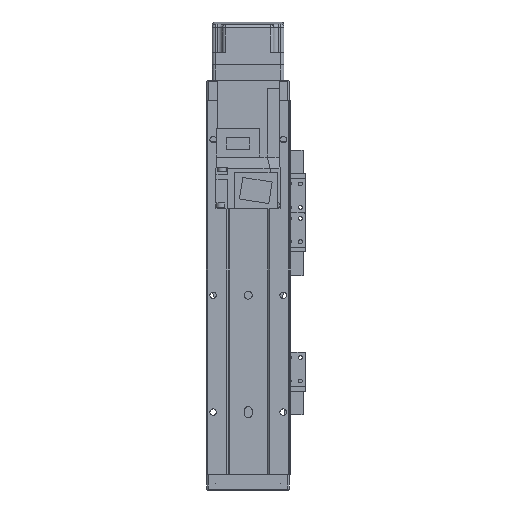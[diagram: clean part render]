
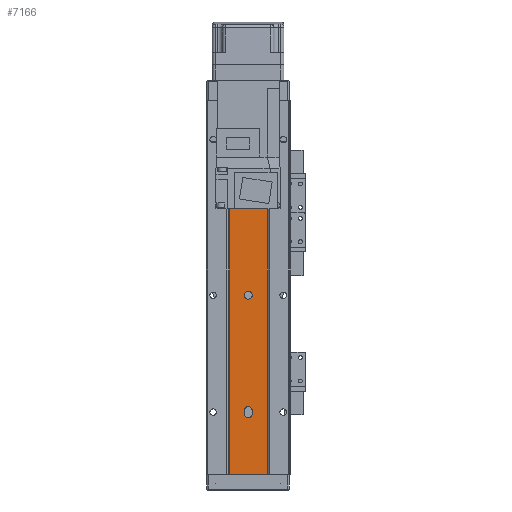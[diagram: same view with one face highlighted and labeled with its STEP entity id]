
A CAD part, front view. The second image highlights one B-rep face of the part: STEP entity #7166.
In plain terms, the highlighted planar face has unit normal (0, -1, 0).
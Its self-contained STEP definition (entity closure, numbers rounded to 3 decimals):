
#966 = VECTOR ( 'NONE', #19597, 1000. ) ;
#1680 = VECTOR ( 'NONE', #19294, 1000. ) ;
#1746 = VERTEX_POINT ( 'NONE', #25744 ) ;
#1857 = VERTEX_POINT ( 'NONE', #32494 ) ;
#2590 = CARTESIAN_POINT ( 'NONE',  ( 2.5, 1.5, -201. ) ) ;
#2775 = CIRCLE ( 'NONE', #32087, 2.5 ) ;
#3123 = AXIS2_PLACEMENT_3D ( 'NONE', #15019, #6473, #8986 ) ;
#3504 = DIRECTION ( 'NONE',  ( 0., -1., 0. ) ) ;
#4446 = CIRCLE ( 'NONE', #8570, 2.5 ) ;
#4576 = VERTEX_POINT ( 'NONE', #4833 ) ;
#4597 = CARTESIAN_POINT ( 'NONE',  ( 2.5, 1.5, -199. ) ) ;
#4639 = CARTESIAN_POINT ( 'NONE',  ( -12.293, 1.5, -240. ) ) ;
#4833 = CARTESIAN_POINT ( 'NONE',  ( -12.293, 1.5, 0. ) ) ;
#5789 = ORIENTED_EDGE ( 'NONE', *, *, #15330, .F. ) ;
#6116 = DIRECTION ( 'NONE',  ( 1., 0., 0. ) ) ;
#6473 = DIRECTION ( 'NONE',  ( 0., -1., 0. ) ) ;
#6650 = FACE_BOUND ( 'NONE', #19125, .T. ) ;
#7133 = FACE_BOUND ( 'NONE', #36907, .T. ) ;
#7166 = ADVANCED_FACE ( 'NONE', ( #7133, #14301, #6650, #22002 ), #32478, .T. ) ;
#7495 = CIRCLE ( 'NONE', #8347, 2.5 ) ;
#7758 = EDGE_CURVE ( 'NONE', #36876, #4576, #17841, .T. ) ;
#8347 = AXIS2_PLACEMENT_3D ( 'NONE', #26218, #3504, #35041 ) ;
#8570 = AXIS2_PLACEMENT_3D ( 'NONE', #17163, #34257, #25545 ) ;
#8986 = DIRECTION ( 'NONE',  ( 1., 0., 0. ) ) ;
#9591 = LINE ( 'NONE', #25289, #25888 ) ;
#10089 = VERTEX_POINT ( 'NONE', #2590 ) ;
#10495 = DIRECTION ( 'NONE',  ( 0., -1., 0. ) ) ;
#11305 = LINE ( 'NONE', #28614, #966 ) ;
#11652 = CARTESIAN_POINT ( 'NONE',  ( -2.5, 1.5, -125. ) ) ;
#11894 = VERTEX_POINT ( 'NONE', #19966 ) ;
#11921 = EDGE_CURVE ( 'NONE', #1857, #18638, #11305, .T. ) ;
#12284 = DIRECTION ( 'NONE',  ( 0., -1., 0. ) ) ;
#12417 = AXIS2_PLACEMENT_3D ( 'NONE', #25166, #10495, #16541 ) ;
#12557 = VERTEX_POINT ( 'NONE', #26542 ) ;
#12841 = DIRECTION ( 'NONE',  ( 0., 0., 1. ) ) ;
#12905 = LINE ( 'NONE', #31314, #1680 ) ;
#14301 = FACE_BOUND ( 'NONE', #31506, .T. ) ;
#15019 = CARTESIAN_POINT ( 'NONE',  ( 12.293, 1.5, -240. ) ) ;
#15222 = CARTESIAN_POINT ( 'NONE',  ( -12.293, 1.5, -240. ) ) ;
#15330 = EDGE_CURVE ( 'NONE', #24517, #1746, #31989, .T. ) ;
#15415 = VERTEX_POINT ( 'NONE', #36190 ) ;
#16055 = ORIENTED_EDGE ( 'NONE', *, *, #28660, .F. ) ;
#16083 = DIRECTION ( 'NONE',  ( 0., -1., 0. ) ) ;
#16090 = ORIENTED_EDGE ( 'NONE', *, *, #24359, .T. ) ;
#16335 = CARTESIAN_POINT ( 'NONE',  ( 2.5, 1.5, -125. ) ) ;
#16541 = DIRECTION ( 'NONE',  ( 1., 0., 0. ) ) ;
#17163 = CARTESIAN_POINT ( 'NONE',  ( 0., 1.5, -25. ) ) ;
#17718 = VERTEX_POINT ( 'NONE', #11652 ) ;
#17841 = LINE ( 'NONE', #15222, #26931 ) ;
#17854 = CARTESIAN_POINT ( 'NONE',  ( 0., 1.5, -125. ) ) ;
#18638 = VERTEX_POINT ( 'NONE', #36987 ) ;
#18919 = LINE ( 'NONE', #23382, #28544 ) ;
#19072 = EDGE_CURVE ( 'NONE', #17718, #23555, #24867, .T. ) ;
#19125 = EDGE_LOOP ( 'NONE', ( #29067, #34258 ) ) ;
#19294 = DIRECTION ( 'NONE',  ( 0., 0., -1. ) ) ;
#19597 = DIRECTION ( 'NONE',  ( 0., 0., 1. ) ) ;
#19966 = CARTESIAN_POINT ( 'NONE',  ( -2.5, 1.5, -201. ) ) ;
#20074 = EDGE_CURVE ( 'NONE', #15415, #12557, #30731, .T. ) ;
#20458 = ORIENTED_EDGE ( 'NONE', *, *, #7758, .F. ) ;
#20894 = CARTESIAN_POINT ( 'NONE',  ( 0., 1.5, -25. ) ) ;
#22002 = FACE_OUTER_BOUND ( 'NONE', #31939, .T. ) ;
#22339 = ORIENTED_EDGE ( 'NONE', *, *, #28119, .F. ) ;
#23382 = CARTESIAN_POINT ( 'NONE',  ( 12.293, 1.5, -240. ) ) ;
#23555 = VERTEX_POINT ( 'NONE', #16335 ) ;
#24359 = EDGE_CURVE ( 'NONE', #36876, #1857, #18919, .T. ) ;
#24517 = VERTEX_POINT ( 'NONE', #4597 ) ;
#24794 = CARTESIAN_POINT ( 'NONE',  ( 0., 1.5, -199. ) ) ;
#24867 = CIRCLE ( 'NONE', #12417, 2.5 ) ;
#25166 = CARTESIAN_POINT ( 'NONE',  ( 0., 1.5, -125. ) ) ;
#25190 = ORIENTED_EDGE ( 'NONE', *, *, #26807, .F. ) ;
#25289 = CARTESIAN_POINT ( 'NONE',  ( 12.293, 1.5, 0. ) ) ;
#25545 = DIRECTION ( 'NONE',  ( 1., 0., 0. ) ) ;
#25744 = CARTESIAN_POINT ( 'NONE',  ( -2.5, 1.5, -199. ) ) ;
#25823 = VECTOR ( 'NONE', #12841, 1000. ) ;
#25888 = VECTOR ( 'NONE', #28120, 1000. ) ;
#26218 = CARTESIAN_POINT ( 'NONE',  ( 0., 1.5, -201. ) ) ;
#26230 = EDGE_CURVE ( 'NONE', #12557, #15415, #4446, .T. ) ;
#26542 = CARTESIAN_POINT ( 'NONE',  ( 2.5, 1.5, -25. ) ) ;
#26807 = EDGE_CURVE ( 'NONE', #11894, #10089, #7495, .T. ) ;
#26931 = VECTOR ( 'NONE', #32691, 1000. ) ;
#27186 = LINE ( 'NONE', #30182, #25823 ) ;
#27723 = EDGE_CURVE ( 'NONE', #4576, #18638, #9591, .T. ) ;
#28119 = EDGE_CURVE ( 'NONE', #10089, #24517, #27186, .T. ) ;
#28120 = DIRECTION ( 'NONE',  ( 1., 0., 0. ) ) ;
#28544 = VECTOR ( 'NONE', #6116, 1000. ) ;
#28614 = CARTESIAN_POINT ( 'NONE',  ( 12.293, 1.5, -240. ) ) ;
#28660 = EDGE_CURVE ( 'NONE', #23555, #17718, #2775, .T. ) ;
#29067 = ORIENTED_EDGE ( 'NONE', *, *, #26230, .F. ) ;
#29263 = AXIS2_PLACEMENT_3D ( 'NONE', #24794, #30643, #33428 ) ;
#30010 = DIRECTION ( 'NONE',  ( 1., 0., 0. ) ) ;
#30182 = CARTESIAN_POINT ( 'NONE',  ( 2.5, 1.5, -240. ) ) ;
#30643 = DIRECTION ( 'NONE',  ( 0., -1., 0. ) ) ;
#30731 = CIRCLE ( 'NONE', #34880, 2.5 ) ;
#31314 = CARTESIAN_POINT ( 'NONE',  ( -2.5, 1.5, -240. ) ) ;
#31506 = EDGE_LOOP ( 'NONE', ( #16055, #32431 ) ) ;
#31939 = EDGE_LOOP ( 'NONE', ( #35311, #20458, #16090, #32083 ) ) ;
#31989 = CIRCLE ( 'NONE', #29263, 2.5 ) ;
#32083 = ORIENTED_EDGE ( 'NONE', *, *, #11921, .T. ) ;
#32087 = AXIS2_PLACEMENT_3D ( 'NONE', #17854, #16083, #36333 ) ;
#32431 = ORIENTED_EDGE ( 'NONE', *, *, #19072, .F. ) ;
#32478 = PLANE ( 'NONE',  #3123 ) ;
#32494 = CARTESIAN_POINT ( 'NONE',  ( 12.293, 1.5, -240. ) ) ;
#32691 = DIRECTION ( 'NONE',  ( 0., 0., 1. ) ) ;
#33428 = DIRECTION ( 'NONE',  ( 1., 0., 0. ) ) ;
#33446 = ORIENTED_EDGE ( 'NONE', *, *, #36395, .F. ) ;
#34257 = DIRECTION ( 'NONE',  ( 0., -1., 0. ) ) ;
#34258 = ORIENTED_EDGE ( 'NONE', *, *, #20074, .F. ) ;
#34880 = AXIS2_PLACEMENT_3D ( 'NONE', #20894, #12284, #30010 ) ;
#35041 = DIRECTION ( 'NONE',  ( 1., 0., 0. ) ) ;
#35311 = ORIENTED_EDGE ( 'NONE', *, *, #27723, .F. ) ;
#36190 = CARTESIAN_POINT ( 'NONE',  ( -2.5, 1.5, -25. ) ) ;
#36333 = DIRECTION ( 'NONE',  ( 1., 0., 0. ) ) ;
#36395 = EDGE_CURVE ( 'NONE', #1746, #11894, #12905, .T. ) ;
#36876 = VERTEX_POINT ( 'NONE', #4639 ) ;
#36907 = EDGE_LOOP ( 'NONE', ( #25190, #33446, #5789, #22339 ) ) ;
#36987 = CARTESIAN_POINT ( 'NONE',  ( 12.293, 1.5, 0. ) ) ;
